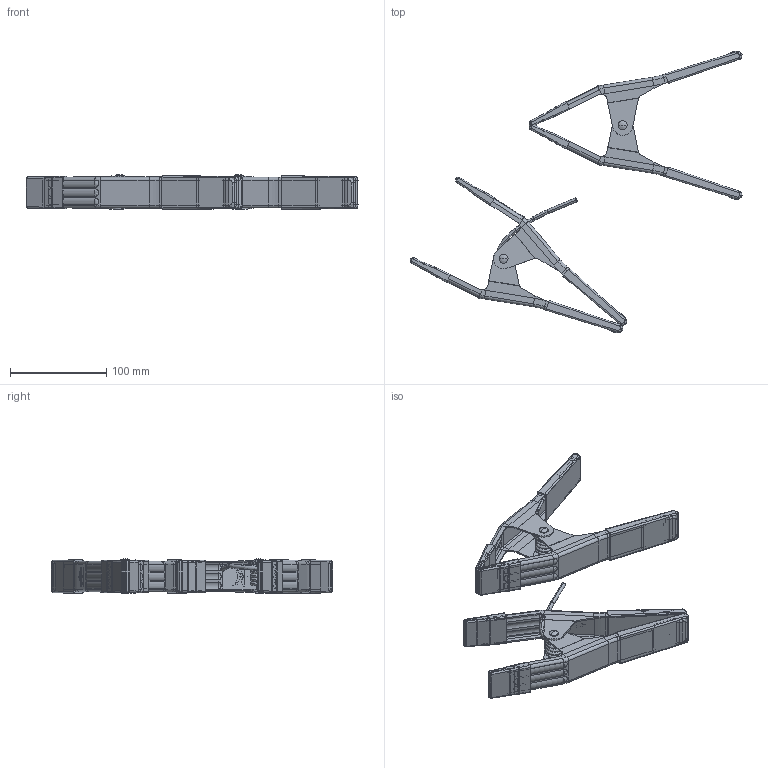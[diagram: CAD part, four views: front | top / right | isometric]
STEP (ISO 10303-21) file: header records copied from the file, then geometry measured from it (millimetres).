
FILE_DESCRIPTION((''),'2;1');
FILE_NAME('GS-CL16-3_ASM','2016-09-28T',('075_kfb'),(''),'PRO/ENGINEER BY PARAMETRIC TECHNOLOGY CORPORATION, 2010280','PRO/ENGINEER BY PARAMETRIC TECHNOLOGY CORPORATION, 2010280','');
FILE_SCHEMA(('AUTOMOTIVE_DESIGN_CC2 { 1 2 10303 214 -1 1 5 2 }'));
Products named in the file (16): JIAZI-3-S; XD-5-2; TANHUANG3; JIAZI-3A-S; PRT0001; QT-3; HT-3; JIAZI-3-S_38; XD-5-2_2; TANHUANG3_11; JIAZI-3A-S_9; QT-3_4; HT-3_5; GS-CL16-3_ASM_34_ASM; 8_ASM; GS-CL16-3_ASM
Assembly tree (19 placements, depth 4):
  GS-CL16-3_ASM
    JIAZI-3-S
    XD-5-2
    TANHUANG3
    JIAZI-3A-S
    PRT0001
    QT-3  x2
    HT-3  x2
    8_ASM
      GS-CL16-3_ASM_34_ASM
        JIAZI-3-S_38
        XD-5-2_2
        TANHUANG3_11
        JIAZI-3A-S_9
        QT-3_4  x2
        HT-3_5  x2
Bounding box: 345.48 x 292.98 x 36.4 mm (x, y, z)
Volume: 147759.7 mm3; surface area: 196052.7 mm2
Topology: 16 solids, 16 shells, 2346 faces, 5600 edges, 3283 vertices
Faces by surface type: plane 1104, cylinder 588, bspline 300, torus 186, extrusion 148, sphere 12, revolution 8
Entity records: 94862 total; most frequent: CARTESIAN_POINT 31897, ORIENTED_EDGE 10240, DIRECTION 9149, EDGE_CURVE 5120, PRESENTATION_STYLE_ASSIGNMENT 4972, STYLED_ITEM 4972, CURVE_STYLE 4963, VECTOR 3101
